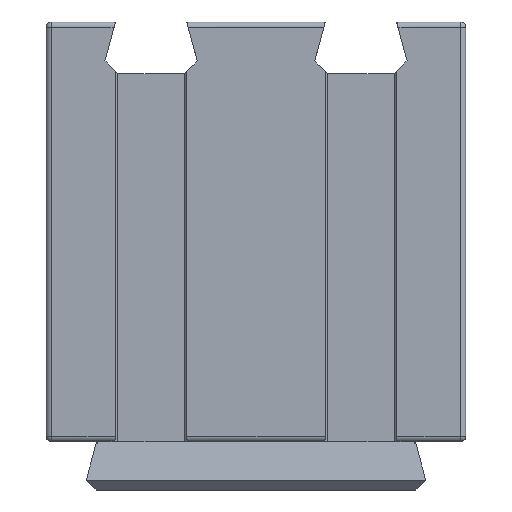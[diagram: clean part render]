
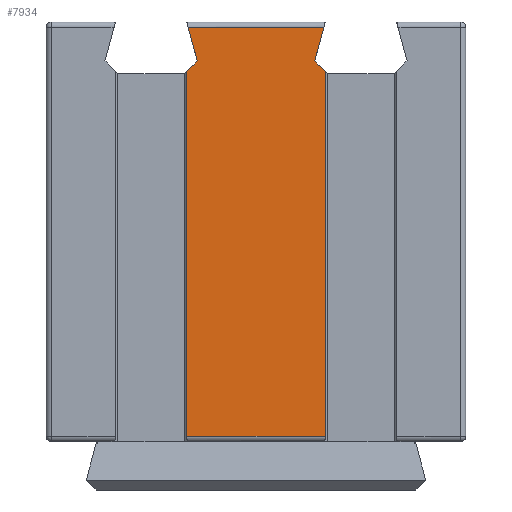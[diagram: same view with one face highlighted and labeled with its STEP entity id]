
A CAD part, left-side view. The second image highlights one B-rep face of the part: STEP entity #7934.
In plain terms, the highlighted planar face has unit normal (-1, 0, 0).
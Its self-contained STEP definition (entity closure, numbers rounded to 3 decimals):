
#79=PLANE('',#8458);
#537=FACE_OUTER_BOUND('',#1019,.T.);
#1019=EDGE_LOOP('',(#5752,#5753,#5754,#5755,#5756,#5757,#5758,#5759));
#1473=LINE('',#11168,#2565);
#1477=LINE('',#11176,#2569);
#1602=LINE('',#11480,#2694);
#1606=LINE('',#11489,#2698);
#1608=LINE('',#11492,#2700);
#1609=LINE('',#11494,#2701);
#1610=LINE('',#11496,#2702);
#1611=LINE('',#11497,#2703);
#2565=VECTOR('',#8965,10.);
#2569=VECTOR('',#8971,20.);
#2694=VECTOR('',#9198,10.);
#2698=VECTOR('',#9208,20.);
#2700=VECTOR('',#9212,20.);
#2701=VECTOR('',#9213,20.);
#2702=VECTOR('',#9214,20.);
#2703=VECTOR('',#9215,20.);
#3696=VERTEX_POINT('',#11161);
#3699=VERTEX_POINT('',#11166);
#3702=VERTEX_POINT('',#11174);
#3829=VERTEX_POINT('',#11477);
#3830=VERTEX_POINT('',#11479);
#3832=VERTEX_POINT('',#11488);
#3833=VERTEX_POINT('',#11493);
#3834=VERTEX_POINT('',#11495);
#4387=EDGE_CURVE('',#3699,#3696,#1473,.T.);
#4391=EDGE_CURVE('',#3699,#3702,#1477,.T.);
#4541=EDGE_CURVE('',#3829,#3830,#1602,.T.);
#4546=EDGE_CURVE('',#3832,#3830,#1606,.T.);
#4548=EDGE_CURVE('',#3702,#3832,#1608,.T.);
#4549=EDGE_CURVE('',#3829,#3833,#1609,.T.);
#4550=EDGE_CURVE('',#3833,#3834,#1610,.T.);
#4551=EDGE_CURVE('',#3834,#3696,#1611,.T.);
#5752=ORIENTED_EDGE('',*,*,#4387,.F.);
#5753=ORIENTED_EDGE('',*,*,#4391,.T.);
#5754=ORIENTED_EDGE('',*,*,#4548,.T.);
#5755=ORIENTED_EDGE('',*,*,#4546,.T.);
#5756=ORIENTED_EDGE('',*,*,#4541,.F.);
#5757=ORIENTED_EDGE('',*,*,#4549,.T.);
#5758=ORIENTED_EDGE('',*,*,#4550,.T.);
#5759=ORIENTED_EDGE('',*,*,#4551,.T.);
#7934=ADVANCED_FACE('',(#537),#79,.F.);
#8458=AXIS2_PLACEMENT_3D('',#11491,#9210,#9211);
#8965=DIRECTION('',(0.,1.,0.));
#8971=DIRECTION('',(0.,0.,1.));
#9198=DIRECTION('',(0.,-1.,0.));
#9208=DIRECTION('',(0.,-0.259,0.966));
#9210=DIRECTION('center_axis',(1.,0.,0.));
#9211=DIRECTION('ref_axis',(0.,0.,1.));
#9212=DIRECTION('',(0.,0.707,0.707));
#9213=DIRECTION('',(0.,-0.259,-0.966));
#9214=DIRECTION('',(0.,0.707,-0.707));
#9215=DIRECTION('',(0.,0.,-1.));
#11161=CARTESIAN_POINT('',(-15.,-16.4,-18.5));
#11166=CARTESIAN_POINT('',(-15.,-29.6,-18.5));
#11168=CARTESIAN_POINT('',(-15.,-33.,-18.5));
#11174=CARTESIAN_POINT('',(-15.,-29.6,16.297));
#11176=CARTESIAN_POINT('',(-15.,-29.6,12.));
#11477=CARTESIAN_POINT('',(-15.,-16.534,20.5));
#11479=CARTESIAN_POINT('',(-15.,-29.466,20.5));
#11480=CARTESIAN_POINT('',(-15.,-23.,20.5));
#11488=CARTESIAN_POINT('',(-15.,-28.606,17.291));
#11489=CARTESIAN_POINT('',(-15.,-26.382,8.99));
#11491=CARTESIAN_POINT('Origin',(-15.,-23.,1.));
#11492=CARTESIAN_POINT('',(-15.,-31.878,14.019));
#11493=CARTESIAN_POINT('',(-15.,-17.394,17.291));
#11494=CARTESIAN_POINT('',(-15.,-19.121,10.845));
#11495=CARTESIAN_POINT('',(-15.,-16.4,16.297));
#11496=CARTESIAN_POINT('',(-15.,-14.723,14.62));
#11497=CARTESIAN_POINT('',(-15.,-16.4,12.));
